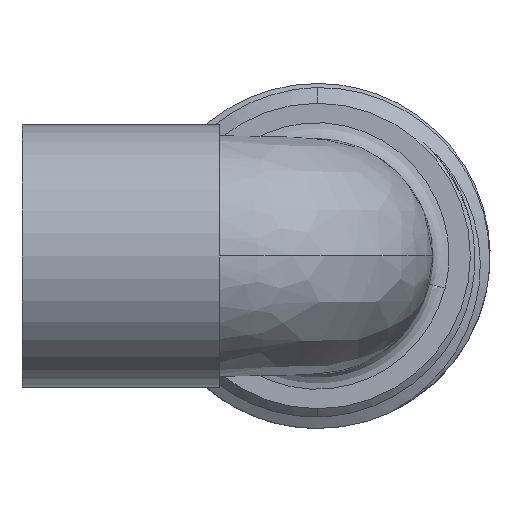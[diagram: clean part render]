
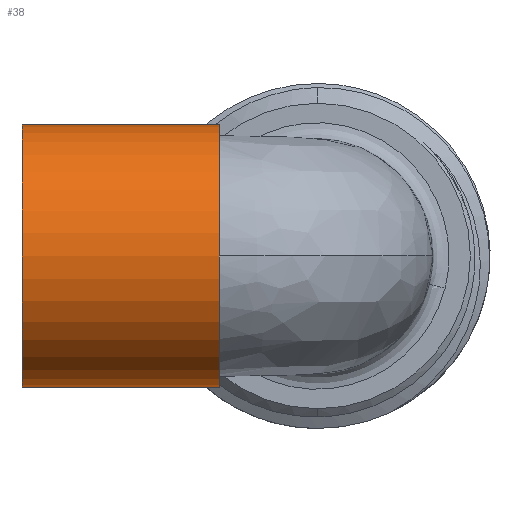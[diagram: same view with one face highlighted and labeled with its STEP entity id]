
A CAD part, left-side view. The second image highlights one B-rep face of the part: STEP entity #38.
In plain terms, the highlighted cylindrical face has radius 8 mm (diameter 16 mm), a partial arc.
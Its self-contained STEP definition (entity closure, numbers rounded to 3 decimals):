
#13 = ORIENTED_EDGE ( 'NONE', *, *, #42, .F. ) ;
#33 = ORIENTED_EDGE ( 'NONE', *, *, #85, .T. ) ;
#34 = EDGE_CURVE ( 'NONE', #187, #186, #413, .T. ) ;
#35 = ORIENTED_EDGE ( 'NONE', *, *, #34, .T. ) ;
#36 = EDGE_LOOP ( 'NONE', ( #37, #35, #33, #13 ) ) ;
#37 = ORIENTED_EDGE ( 'NONE', *, *, #93, .F. ) ;
#38 = ADVANCED_FACE ( 'NONE', ( #414 ), #408, .T. ) ;
#42 = EDGE_CURVE ( 'NONE', #92, #88, #453, .T. ) ;
#85 = EDGE_CURVE ( 'NONE', #186, #88, #759, .T. ) ;
#88 = VERTEX_POINT ( 'NONE', #736 ) ;
#92 = VERTEX_POINT ( 'NONE', #784 ) ;
#93 = EDGE_CURVE ( 'NONE', #187, #92, #783, .T. ) ;
#186 = VERTEX_POINT ( 'NONE', #1654 ) ;
#187 = VERTEX_POINT ( 'NONE', #1653 ) ;
#407 = CARTESIAN_POINT ( 'NONE',  ( 0., 0., 0. ) ) ;
#408 = CYLINDRICAL_SURFACE ( 'NONE', #455, 8. ) ;
#409 = DIRECTION ( 'NONE',  ( 0., -1., 0. ) ) ;
#410 = DIRECTION ( 'NONE',  ( 0., 0., -1. ) ) ;
#411 = DIRECTION ( 'NONE',  ( 0., -1., 0. ) ) ;
#412 = AXIS2_PLACEMENT_3D ( 'NONE', #421, #411, #410 ) ;
#413 = CIRCLE ( 'NONE', #412, 8. ) ;
#414 = FACE_OUTER_BOUND ( 'NONE', #36, .T. ) ;
#421 = CARTESIAN_POINT ( 'NONE',  ( 0., 18., 0. ) ) ;
#449 = DIRECTION ( 'NONE',  ( 0., 0., -1. ) ) ;
#450 = DIRECTION ( 'NONE',  ( 0., -1., 0. ) ) ;
#451 = CARTESIAN_POINT ( 'NONE',  ( 0., 6., 0. ) ) ;
#452 = AXIS2_PLACEMENT_3D ( 'NONE', #451, #450, #449 ) ;
#453 = CIRCLE ( 'NONE', #452, 8. ) ;
#454 = DIRECTION ( 'NONE',  ( 0., 0., -1. ) ) ;
#455 = AXIS2_PLACEMENT_3D ( 'NONE', #407, #409, #454 ) ;
#736 = CARTESIAN_POINT ( 'NONE',  ( 0., 6., -8. ) ) ;
#756 = DIRECTION ( 'NONE',  ( 0., -1., 0. ) ) ;
#757 = VECTOR ( 'NONE', #756, 1000. ) ;
#758 = CARTESIAN_POINT ( 'NONE',  ( 0., 0., -8. ) ) ;
#759 = LINE ( 'NONE', #758, #757 ) ;
#780 = DIRECTION ( 'NONE',  ( 0., -1., 0. ) ) ;
#781 = VECTOR ( 'NONE', #780, 1000. ) ;
#782 = CARTESIAN_POINT ( 'NONE',  ( 0., 0., 8. ) ) ;
#783 = LINE ( 'NONE', #782, #781 ) ;
#784 = CARTESIAN_POINT ( 'NONE',  ( 0., 6., 8. ) ) ;
#1653 = CARTESIAN_POINT ( 'NONE',  ( 0., 18., 8. ) ) ;
#1654 = CARTESIAN_POINT ( 'NONE',  ( 0., 18., -8. ) ) ;
